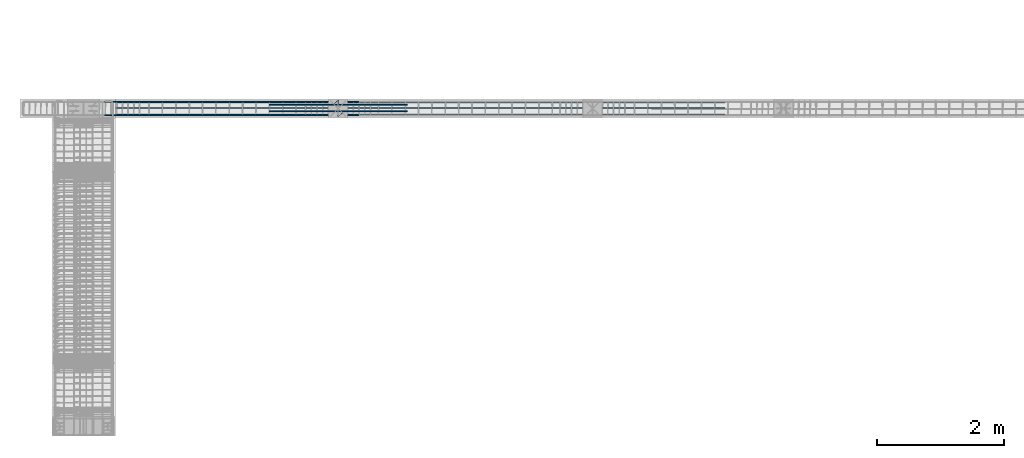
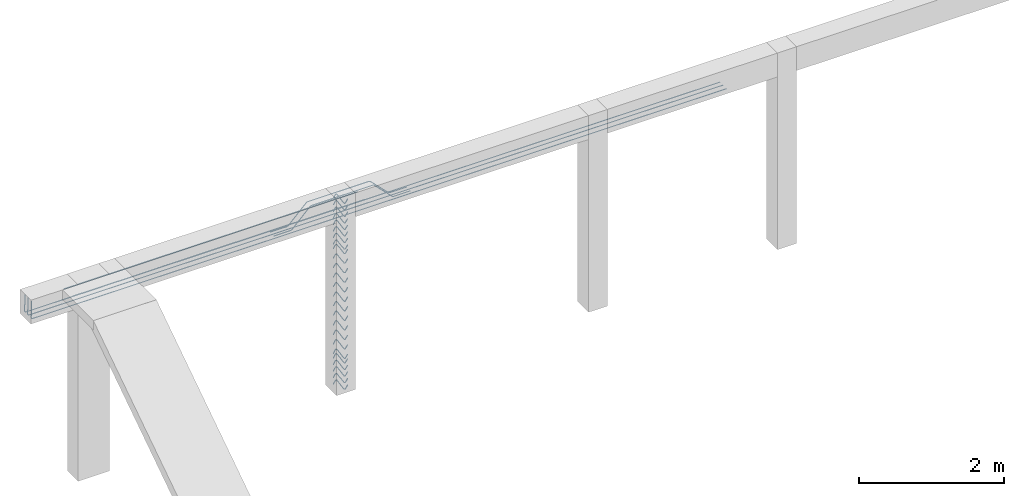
# One storey, part 8 of 24: 4 reinforcing bars.
"""IFC2X3 building model written with IfcOpenShell, lengths in metres."""

from ifc_helpers import new_model, entity, si_unit, direction, frame, origin, place, context, subcontext, project, spatial, shape, source, transform, mapped, element, save


model = new_model("IFC2X3")

# Units and contexts
model_context = context("Model", 3, precision=0.0, world=origin(), true_north=direction((0.0, 1.0)))
plan_context = context("Plan", 3, precision=0.0, world=origin(), true_north=direction((0.0, 1.0)))
body_context = subcontext(model_context, "Body", "Model", "MODEL_VIEW", scale=1.0)
ifc_project = project(units=[si_unit("LENGTHUNIT", "METRE"), si_unit("AREAUNIT", "SQUARE_METRE"), si_unit("VOLUMEUNIT", "CUBIC_METRE"), si_unit("PLANEANGLEUNIT", "RADIAN"), si_unit("THERMODYNAMICTEMPERATUREUNIT", "DEGREE_CELSIUS"), si_unit("FORCEUNIT", "NEWTON"), si_unit("MASSUNIT", "GRAM", prefix="KILO")], contexts=[model_context, plan_context])

# Site, building, storey
placement = place(None, origin())
site = spatial("IfcSite", under=ifc_project, at=placement, Name="Default Site", CompositionType="ELEMENT")
building = spatial("IfcBuilding", under=site, at=placement, Name="Default Building", CompositionType="ELEMENT")
storey_placement = place(placement, frame((0.0, 0.0, 3.3), z_axis=(1.0, 0.0, 0.0), x_axis=(0.0, 0.0, 1.0)))
storey = spatial("IfcBuildingStorey", under=building, at=storey_placement, Name="Piano 2", CompositionType="ELEMENT", Elevation=3.3)

# Reinforcing bars
shared_shape_1 = source(origin(), body_context, None, "AdvancedSweptSolid", [
    entity("IfcSweptDiskSolid", entity("IfcCompositeCurve", [entity("IfcCompositeCurveSegment", "CONTINUOUS", True, entity("IfcPolyline", [entity("IfcCartesianPoint", [0.0, 0.0, 0.0]), entity("IfcCartesianPoint", [0.268402, 0.0, 0.0]), entity("IfcCartesianPoint", [0.288201, 0.0, 0.008201]), entity("IfcCartesianPoint", [0.575799, 0.0, 0.295799]), entity("IfcCartesianPoint", [0.595598, 0.0, 0.304]), entity("IfcCartesianPoint", [1.084, 0.0, 0.304]), entity("IfcCartesianPoint", [1.572402, 0.0, 0.304]), entity("IfcCartesianPoint", [1.592201, 0.0, 0.295799]), entity("IfcCartesianPoint", [1.879799, 0.0, 0.008201]), entity("IfcCartesianPoint", [1.899598, 0.0, 0.0]), entity("IfcCartesianPoint", [2.168, 0.0, 0.0])]))], False), 0.007, 0.0, 0.0),
])
shared_shape_2 = source(origin(), body_context, None, "MappedRepresentation", [mapped(shared_shape_1, transform((-1.084, 4.9545, 2.944)))])
shared_shape_3 = source(origin(), body_context, None, "AdvancedSweptSolid", [
    entity("IfcSweptDiskSolid", entity("IfcCompositeCurve", [entity("IfcCompositeCurveSegment", "CONTINUOUS", True, entity("IfcPolyline", [entity("IfcCartesianPoint", [0.0, 0.0, 0.0]), entity("IfcCartesianPoint", [0.268402, 0.0, 0.0]), entity("IfcCartesianPoint", [0.288201, 0.0, 0.008201]), entity("IfcCartesianPoint", [0.575799, 0.0, 0.295799]), entity("IfcCartesianPoint", [0.595598, 0.0, 0.304]), entity("IfcCartesianPoint", [1.084, 0.0, 0.304]), entity("IfcCartesianPoint", [1.572402, 0.0, 0.304]), entity("IfcCartesianPoint", [1.592201, 0.0, 0.295799]), entity("IfcCartesianPoint", [1.879799, 0.0, 0.008201]), entity("IfcCartesianPoint", [1.899598, 0.0, 0.0]), entity("IfcCartesianPoint", [2.168, 0.0, 0.0])]))], False), 0.007, 0.0, 0.0),
])
shared_shape_4 = source(origin(), body_context, None, "MappedRepresentation", [mapped(shared_shape_3, transform((-1.084, 5.0595, 2.944)))])
element("IfcReinforcingBar", 1, at=placement, inside=storey, Name="Arm Superiore; Trave:5 [Piano:2]", BarLength=4.832621, BarRole="MAIN", BarSurface="TEXTURED", NominalDiameter=0.014, shapes=[
    shape(body_context, None, "MappedRepresentation", [mapped(shared_shape_2, transform((0.0, 0.0, 0.0))), mapped(shared_shape_4, transform((0.0, 0.0, 0.0)))]),
])
shared_shape_5 = source(origin(), body_context, None, "AdvancedSweptSolid", [
    entity("IfcSweptDiskSolid", entity("IfcCompositeCurve", [entity("IfcCompositeCurveSegment", "CONTINUOUS", True, entity("IfcPolyline", [entity("IfcCartesianPoint", [0.0, 0.0, 0.0]), entity("IfcCartesianPoint", [0.0, 0.012466, -0.276029]), entity("IfcCartesianPoint", [0.003751, 0.013097, -0.290014]), entity("IfcCartesianPoint", [0.014, 0.01356, -0.300253]), entity("IfcCartesianPoint", [0.028, 0.013729, -0.304]), entity("IfcCartesianPoint", [0.962, 0.013729, -0.304]), entity("IfcCartesianPoint", [4.962, 0.013729, -0.304]), entity("IfcCartesianPoint", [8.962, 0.013729, -0.304]), entity("IfcCartesianPoint", [10.462, 0.013729, -0.304]), entity("IfcCartesianPoint", [11.0395, 0.013729, -0.304])]))], False), 0.007, 0.0, 0.0),
])
shared_shape_6 = source(origin(), body_context, None, "MappedRepresentation", [mapped(shared_shape_5, transform((-4.962, 4.895271, 3.242)))])
shared_shape_7 = source(origin(), body_context, None, "AdvancedSweptSolid", [
    entity("IfcSweptDiskSolid", entity("IfcCompositeCurve", [entity("IfcCompositeCurveSegment", "CONTINUOUS", True, entity("IfcPolyline", [entity("IfcCartesianPoint", [0.0, 0.0, 0.0]), entity("IfcCartesianPoint", [0.0, 0.012466, -0.276029]), entity("IfcCartesianPoint", [0.003751, 0.013097, -0.290014]), entity("IfcCartesianPoint", [0.014, 0.01356, -0.300253]), entity("IfcCartesianPoint", [0.028, 0.013729, -0.304]), entity("IfcCartesianPoint", [0.962, 0.013729, -0.304]), entity("IfcCartesianPoint", [4.962, 0.013729, -0.304]), entity("IfcCartesianPoint", [8.962, 0.013729, -0.304]), entity("IfcCartesianPoint", [10.462, 0.013729, -0.304]), entity("IfcCartesianPoint", [11.0395, 0.013729, -0.304])]))], False), 0.007, 0.0, 0.0),
])
shared_shape_8 = source(origin(), body_context, None, "MappedRepresentation", [mapped(shared_shape_7, transform((-4.962, 4.993271, 3.242)))])
shared_shape_9 = source(origin(), body_context, None, "AdvancedSweptSolid", [
    entity("IfcSweptDiskSolid", entity("IfcCompositeCurve", [entity("IfcCompositeCurveSegment", "CONTINUOUS", True, entity("IfcPolyline", [entity("IfcCartesianPoint", [0.0, 0.0, 0.0]), entity("IfcCartesianPoint", [0.0, 0.012466, -0.276029]), entity("IfcCartesianPoint", [0.003751, 0.013097, -0.290014]), entity("IfcCartesianPoint", [0.014, 0.01356, -0.300253]), entity("IfcCartesianPoint", [0.028, 0.013729, -0.304]), entity("IfcCartesianPoint", [0.962, 0.013729, -0.304]), entity("IfcCartesianPoint", [4.962, 0.013729, -0.304]), entity("IfcCartesianPoint", [8.962, 0.013729, -0.304]), entity("IfcCartesianPoint", [10.462, 0.013729, -0.304]), entity("IfcCartesianPoint", [11.0395, 0.013729, -0.304])]))], False), 0.007, 0.0, 0.0),
])
shared_shape_10 = source(origin(), body_context, None, "MappedRepresentation", [mapped(shared_shape_9, transform((-4.962, 5.077271, 3.242)))])
element("IfcReinforcingBar", 2, at=placement, inside=storey, Name="Arm Inferiore; Trave:5 [Piano:2]", BarLength=34.018911, BarRole="MAIN", BarSurface="TEXTURED", NominalDiameter=0.014, shapes=[
    shape(body_context, None, "MappedRepresentation", [mapped(shared_shape_6, transform((0.0, 0.0, 0.0))), mapped(shared_shape_8, transform((0.0, 0.0, 0.0))), mapped(shared_shape_10, transform((0.0, 0.0, 0.0)))]),
])
shared_shape_11 = source(origin(), body_context, None, "AdvancedSweptSolid", [
    entity("IfcSweptDiskSolid", entity("IfcCompositeCurve", [entity("IfcCompositeCurveSegment", "CONTINUOUS", True, entity("IfcPolyline", [entity("IfcCartesianPoint", [0.0, 0.0, 0.0]), entity("IfcCartesianPoint", [0.326909, 0.0, 0.0]), entity("IfcCartesianPoint", [4.326909, 0.0, 0.0]), entity("IfcCartesianPoint", [4.653818, 0.0, 0.0])]))], False), 0.006, 0.0, 0.0),
])
shared_shape_12 = source(origin(), body_context, None, "MappedRepresentation", [mapped(shared_shape_11, transform((-4.326909, 5.106, 3.099)))])
shared_shape_13 = source(origin(), body_context, None, "AdvancedSweptSolid", [
    entity("IfcSweptDiskSolid", entity("IfcCompositeCurve", [entity("IfcCompositeCurveSegment", "CONTINUOUS", True, entity("IfcPolyline", [entity("IfcCartesianPoint", [0.0, 0.0, 0.0]), entity("IfcCartesianPoint", [0.326909, 0.0, 0.0]), entity("IfcCartesianPoint", [4.326909, 0.0, 0.0]), entity("IfcCartesianPoint", [4.653818, 0.0, 0.0])]))], False), 0.006, 0.0, 0.0),
])
shared_shape_14 = source(origin(), body_context, None, "MappedRepresentation", [mapped(shared_shape_13, transform((-4.326909, 4.894, 3.099)))])
element("IfcReinforcingBar", 3, at=placement, inside=storey, Name="Arm Generica; Trave:5 [Piano:2]", BarLength=9.307635, BarRole="NOTDEFINED", BarSurface="TEXTURED", NominalDiameter=0.012, shapes=[
    shape(body_context, None, "MappedRepresentation", [mapped(shared_shape_12, transform((0.0, 0.0, 0.0))), mapped(shared_shape_14, transform((0.0, 0.0, 0.0)))]),
])
shared_shape_15 = source(origin(), body_context, None, "AdvancedSweptSolid", [
    entity("IfcSweptDiskSolid", entity("IfcCompositeCurve", [entity("IfcCompositeCurveSegment", "CONTINUOUS", True, entity("IfcPolyline", [entity("IfcCartesianPoint", [0.0, 0.0, 0.0]), entity("IfcCartesianPoint", [-0.068884, -0.063585, 0.0]), entity("IfcCartesianPoint", [-0.079736, -0.067828, 0.0]), entity("IfcCartesianPoint", [-0.084613, -0.065808, 0.0]), entity("IfcCartesianPoint", [-0.089037, -0.055129, 0.0]), entity("IfcCartesianPoint", [-0.089037, -0.052272, 0.0]), entity("IfcCartesianPoint", [-0.067037, 0.168616, 0.0]), entity("IfcCartesianPoint", [-0.067037, 0.171101, 0.0]), entity("IfcCartesianPoint", [-0.071723, 0.182415, 0.0]), entity("IfcCartesianPoint", [-0.075966, 0.184172, 0.0]), entity("IfcCartesianPoint", [-0.08719, 0.179929, 0.0]), entity("IfcCartesianPoint", [-0.156073, 0.116344, 0.0])]))], False), 0.004, 0.0, 0.0),
])
shared_shape_16 = source(origin(), body_context, None, "AdvancedSweptSolid", [
    entity("IfcSweptDiskSolid", entity("IfcCompositeCurve", [entity("IfcCompositeCurveSegment", "CONTINUOUS", True, entity("IfcPolyline", [entity("IfcCartesianPoint", [0.0, 0.0, 0.0]), entity("IfcCartesianPoint", [-0.068884, -0.063585, 0.0]), entity("IfcCartesianPoint", [-0.079736, -0.067828, 0.0]), entity("IfcCartesianPoint", [-0.084613, -0.065808, 0.0]), entity("IfcCartesianPoint", [-0.089037, -0.055129, 0.0]), entity("IfcCartesianPoint", [-0.089037, -0.052272, 0.0]), entity("IfcCartesianPoint", [-0.067037, 0.168616, 0.0]), entity("IfcCartesianPoint", [-0.067037, 0.171101, 0.0]), entity("IfcCartesianPoint", [-0.071723, 0.182415, 0.0]), entity("IfcCartesianPoint", [-0.075966, 0.184172, 0.0]), entity("IfcCartesianPoint", [-0.08719, 0.179929, 0.0]), entity("IfcCartesianPoint", [-0.156073, 0.116344, 0.0])]))], False), 0.004, 0.0, 0.0),
])
shared_shape_17 = source(origin(), body_context, None, "AdvancedSweptSolid", [
    entity("IfcSweptDiskSolid", entity("IfcCompositeCurve", [entity("IfcCompositeCurveSegment", "CONTINUOUS", True, entity("IfcPolyline", [entity("IfcCartesianPoint", [0.0, 0.0, 0.0]), entity("IfcCartesianPoint", [-0.068884, -0.063585, 0.0]), entity("IfcCartesianPoint", [-0.079736, -0.067828, 0.0]), entity("IfcCartesianPoint", [-0.084613, -0.065808, 0.0]), entity("IfcCartesianPoint", [-0.089037, -0.055129, 0.0]), entity("IfcCartesianPoint", [-0.089037, -0.052272, 0.0]), entity("IfcCartesianPoint", [-0.067037, 0.168616, 0.0]), entity("IfcCartesianPoint", [-0.067037, 0.171101, 0.0]), entity("IfcCartesianPoint", [-0.071723, 0.182415, 0.0]), entity("IfcCartesianPoint", [-0.075966, 0.184172, 0.0]), entity("IfcCartesianPoint", [-0.08719, 0.179929, 0.0]), entity("IfcCartesianPoint", [-0.156073, 0.116344, 0.0])]))], False), 0.004, 0.0, 0.0),
])
shared_shape_18 = source(origin(), body_context, None, "AdvancedSweptSolid", [
    entity("IfcSweptDiskSolid", entity("IfcCompositeCurve", [entity("IfcCompositeCurveSegment", "CONTINUOUS", True, entity("IfcPolyline", [entity("IfcCartesianPoint", [0.0, 0.0, 0.0]), entity("IfcCartesianPoint", [-0.068884, -0.063585, 0.0]), entity("IfcCartesianPoint", [-0.079736, -0.067828, 0.0]), entity("IfcCartesianPoint", [-0.084613, -0.065808, 0.0]), entity("IfcCartesianPoint", [-0.089037, -0.055129, 0.0]), entity("IfcCartesianPoint", [-0.089037, -0.052272, 0.0]), entity("IfcCartesianPoint", [-0.067037, 0.168616, 0.0]), entity("IfcCartesianPoint", [-0.067037, 0.171101, 0.0]), entity("IfcCartesianPoint", [-0.071723, 0.182415, 0.0]), entity("IfcCartesianPoint", [-0.075966, 0.184172, 0.0]), entity("IfcCartesianPoint", [-0.08719, 0.179929, 0.0]), entity("IfcCartesianPoint", [-0.156073, 0.116344, 0.0])]))], False), 0.004, 0.0, 0.0),
])
shared_shape_19 = source(origin(), body_context, None, "AdvancedSweptSolid", [
    entity("IfcSweptDiskSolid", entity("IfcCompositeCurve", [entity("IfcCompositeCurveSegment", "CONTINUOUS", True, entity("IfcPolyline", [entity("IfcCartesianPoint", [0.0, 0.0, 0.0]), entity("IfcCartesianPoint", [-0.068884, -0.063585, 0.0]), entity("IfcCartesianPoint", [-0.079736, -0.067828, 0.0]), entity("IfcCartesianPoint", [-0.084613, -0.065808, 0.0]), entity("IfcCartesianPoint", [-0.089037, -0.055129, 0.0]), entity("IfcCartesianPoint", [-0.089037, -0.052272, 0.0]), entity("IfcCartesianPoint", [-0.067037, 0.168616, 0.0]), entity("IfcCartesianPoint", [-0.067037, 0.171101, 0.0]), entity("IfcCartesianPoint", [-0.071723, 0.182415, 0.0]), entity("IfcCartesianPoint", [-0.075966, 0.184172, 0.0]), entity("IfcCartesianPoint", [-0.08719, 0.179929, 0.0]), entity("IfcCartesianPoint", [-0.156073, 0.116344, 0.0])]))], False), 0.004, 0.0, 0.0),
])
shared_shape_20 = source(origin(), body_context, None, "AdvancedSweptSolid", [
    entity("IfcSweptDiskSolid", entity("IfcCompositeCurve", [entity("IfcCompositeCurveSegment", "CONTINUOUS", True, entity("IfcPolyline", [entity("IfcCartesianPoint", [0.0, 0.0, 0.0]), entity("IfcCartesianPoint", [-0.068884, -0.063585, 0.0]), entity("IfcCartesianPoint", [-0.079736, -0.067828, 0.0]), entity("IfcCartesianPoint", [-0.084613, -0.065808, 0.0]), entity("IfcCartesianPoint", [-0.089037, -0.055129, 0.0]), entity("IfcCartesianPoint", [-0.089037, -0.052272, 0.0]), entity("IfcCartesianPoint", [-0.067037, 0.168616, 0.0]), entity("IfcCartesianPoint", [-0.067037, 0.171101, 0.0]), entity("IfcCartesianPoint", [-0.071723, 0.182415, 0.0]), entity("IfcCartesianPoint", [-0.075966, 0.184172, 0.0]), entity("IfcCartesianPoint", [-0.08719, 0.179929, 0.0]), entity("IfcCartesianPoint", [-0.156073, 0.116344, 0.0])]))], False), 0.004, 0.0, 0.0),
])
shared_shape_21 = source(origin(), body_context, None, "AdvancedSweptSolid", [
    entity("IfcSweptDiskSolid", entity("IfcCompositeCurve", [entity("IfcCompositeCurveSegment", "CONTINUOUS", True, entity("IfcPolyline", [entity("IfcCartesianPoint", [0.0, 0.0, 0.0]), entity("IfcCartesianPoint", [-0.068884, -0.063585, 0.0]), entity("IfcCartesianPoint", [-0.079736, -0.067828, 0.0]), entity("IfcCartesianPoint", [-0.084613, -0.065808, 0.0]), entity("IfcCartesianPoint", [-0.089037, -0.055129, 0.0]), entity("IfcCartesianPoint", [-0.089037, -0.052272, 0.0]), entity("IfcCartesianPoint", [-0.067037, 0.168616, 0.0]), entity("IfcCartesianPoint", [-0.067037, 0.171101, 0.0]), entity("IfcCartesianPoint", [-0.071723, 0.182415, 0.0]), entity("IfcCartesianPoint", [-0.075966, 0.184172, 0.0]), entity("IfcCartesianPoint", [-0.08719, 0.179929, 0.0]), entity("IfcCartesianPoint", [-0.156073, 0.116344, 0.0])]))], False), 0.004, 0.0, 0.0),
])
shared_shape_22 = source(origin(), body_context, None, "AdvancedSweptSolid", [
    entity("IfcSweptDiskSolid", entity("IfcCompositeCurve", [entity("IfcCompositeCurveSegment", "CONTINUOUS", True, entity("IfcPolyline", [entity("IfcCartesianPoint", [0.0, 0.0, 0.0]), entity("IfcCartesianPoint", [-0.068884, -0.063585, 0.0]), entity("IfcCartesianPoint", [-0.079736, -0.067828, 0.0]), entity("IfcCartesianPoint", [-0.084613, -0.065808, 0.0]), entity("IfcCartesianPoint", [-0.089037, -0.055129, 0.0]), entity("IfcCartesianPoint", [-0.089037, -0.052272, 0.0]), entity("IfcCartesianPoint", [-0.067037, 0.168616, 0.0]), entity("IfcCartesianPoint", [-0.067037, 0.171101, 0.0]), entity("IfcCartesianPoint", [-0.071723, 0.182415, 0.0]), entity("IfcCartesianPoint", [-0.075966, 0.184172, 0.0]), entity("IfcCartesianPoint", [-0.08719, 0.179929, 0.0]), entity("IfcCartesianPoint", [-0.156073, 0.116344, 0.0])]))], False), 0.004, 0.0, 0.0),
])
shared_shape_23 = source(origin(), body_context, None, "AdvancedSweptSolid", [
    entity("IfcSweptDiskSolid", entity("IfcCompositeCurve", [entity("IfcCompositeCurveSegment", "CONTINUOUS", True, entity("IfcPolyline", [entity("IfcCartesianPoint", [0.0, 0.0, 0.0]), entity("IfcCartesianPoint", [-0.068884, -0.063585, 0.0]), entity("IfcCartesianPoint", [-0.079736, -0.067828, 0.0]), entity("IfcCartesianPoint", [-0.084613, -0.065808, 0.0]), entity("IfcCartesianPoint", [-0.089037, -0.055129, 0.0]), entity("IfcCartesianPoint", [-0.089037, -0.052272, 0.0]), entity("IfcCartesianPoint", [-0.067037, 0.168616, 0.0]), entity("IfcCartesianPoint", [-0.067037, 0.171101, 0.0]), entity("IfcCartesianPoint", [-0.071723, 0.182415, 0.0]), entity("IfcCartesianPoint", [-0.075966, 0.184172, 0.0]), entity("IfcCartesianPoint", [-0.08719, 0.179929, 0.0]), entity("IfcCartesianPoint", [-0.156073, 0.116344, 0.0])]))], False), 0.004, 0.0, 0.0),
])
shared_shape_24 = source(origin(), body_context, None, "AdvancedSweptSolid", [
    entity("IfcSweptDiskSolid", entity("IfcCompositeCurve", [entity("IfcCompositeCurveSegment", "CONTINUOUS", True, entity("IfcPolyline", [entity("IfcCartesianPoint", [0.0, 0.0, 0.0]), entity("IfcCartesianPoint", [-0.068884, -0.063585, 0.0]), entity("IfcCartesianPoint", [-0.079736, -0.067828, 0.0]), entity("IfcCartesianPoint", [-0.084613, -0.065808, 0.0]), entity("IfcCartesianPoint", [-0.089037, -0.055129, 0.0]), entity("IfcCartesianPoint", [-0.089037, -0.052272, 0.0]), entity("IfcCartesianPoint", [-0.067037, 0.168616, 0.0]), entity("IfcCartesianPoint", [-0.067037, 0.171101, 0.0]), entity("IfcCartesianPoint", [-0.071723, 0.182415, 0.0]), entity("IfcCartesianPoint", [-0.075966, 0.184172, 0.0]), entity("IfcCartesianPoint", [-0.08719, 0.179929, 0.0]), entity("IfcCartesianPoint", [-0.156073, 0.116344, 0.0])]))], False), 0.004, 0.0, 0.0),
])
shared_shape_25 = source(origin(), body_context, None, "AdvancedSweptSolid", [
    entity("IfcSweptDiskSolid", entity("IfcCompositeCurve", [entity("IfcCompositeCurveSegment", "CONTINUOUS", True, entity("IfcPolyline", [entity("IfcCartesianPoint", [0.0, 0.0, 0.0]), entity("IfcCartesianPoint", [-0.068884, -0.063585, 0.0]), entity("IfcCartesianPoint", [-0.079736, -0.067828, 0.0]), entity("IfcCartesianPoint", [-0.084613, -0.065808, 0.0]), entity("IfcCartesianPoint", [-0.089037, -0.055129, 0.0]), entity("IfcCartesianPoint", [-0.089037, -0.052272, 0.0]), entity("IfcCartesianPoint", [-0.067037, 0.168616, 0.0]), entity("IfcCartesianPoint", [-0.067037, 0.171101, 0.0]), entity("IfcCartesianPoint", [-0.071723, 0.182415, 0.0]), entity("IfcCartesianPoint", [-0.075966, 0.184172, 0.0]), entity("IfcCartesianPoint", [-0.08719, 0.179929, 0.0]), entity("IfcCartesianPoint", [-0.156073, 0.116344, 0.0])]))], False), 0.004, 0.0, 0.0),
])
shared_shape_26 = source(origin(), body_context, None, "AdvancedSweptSolid", [
    entity("IfcSweptDiskSolid", entity("IfcCompositeCurve", [entity("IfcCompositeCurveSegment", "CONTINUOUS", True, entity("IfcPolyline", [entity("IfcCartesianPoint", [0.0, 0.0, 0.0]), entity("IfcCartesianPoint", [-0.068884, -0.063585, 0.0]), entity("IfcCartesianPoint", [-0.079736, -0.067828, 0.0]), entity("IfcCartesianPoint", [-0.084613, -0.065808, 0.0]), entity("IfcCartesianPoint", [-0.089037, -0.055129, 0.0]), entity("IfcCartesianPoint", [-0.089037, -0.052272, 0.0]), entity("IfcCartesianPoint", [-0.067037, 0.168616, 0.0]), entity("IfcCartesianPoint", [-0.067037, 0.171101, 0.0]), entity("IfcCartesianPoint", [-0.071723, 0.182415, 0.0]), entity("IfcCartesianPoint", [-0.075966, 0.184172, 0.0]), entity("IfcCartesianPoint", [-0.08719, 0.179929, 0.0]), entity("IfcCartesianPoint", [-0.156073, 0.116344, 0.0])]))], False), 0.004, 0.0, 0.0),
])
shared_shape_27 = source(origin(), body_context, None, "AdvancedSweptSolid", [
    entity("IfcSweptDiskSolid", entity("IfcCompositeCurve", [entity("IfcCompositeCurveSegment", "CONTINUOUS", True, entity("IfcPolyline", [entity("IfcCartesianPoint", [0.0, 0.0, 0.0]), entity("IfcCartesianPoint", [-0.068884, -0.063585, 0.0]), entity("IfcCartesianPoint", [-0.079736, -0.067828, 0.0]), entity("IfcCartesianPoint", [-0.084613, -0.065808, 0.0]), entity("IfcCartesianPoint", [-0.089037, -0.055129, 0.0]), entity("IfcCartesianPoint", [-0.089037, -0.052272, 0.0]), entity("IfcCartesianPoint", [-0.067037, 0.168616, 0.0]), entity("IfcCartesianPoint", [-0.067037, 0.171101, 0.0]), entity("IfcCartesianPoint", [-0.071723, 0.182415, 0.0]), entity("IfcCartesianPoint", [-0.075966, 0.184172, 0.0]), entity("IfcCartesianPoint", [-0.08719, 0.179929, 0.0]), entity("IfcCartesianPoint", [-0.156073, 0.116344, 0.0])]))], False), 0.004, 0.0, 0.0),
])
shared_shape_28 = source(origin(), body_context, None, "AdvancedSweptSolid", [
    entity("IfcSweptDiskSolid", entity("IfcCompositeCurve", [entity("IfcCompositeCurveSegment", "CONTINUOUS", True, entity("IfcPolyline", [entity("IfcCartesianPoint", [0.0, 0.0, 0.0]), entity("IfcCartesianPoint", [-0.068884, -0.063585, 0.0]), entity("IfcCartesianPoint", [-0.079736, -0.067828, 0.0]), entity("IfcCartesianPoint", [-0.084613, -0.065808, 0.0]), entity("IfcCartesianPoint", [-0.089037, -0.055129, 0.0]), entity("IfcCartesianPoint", [-0.089037, -0.052272, 0.0]), entity("IfcCartesianPoint", [-0.067037, 0.168616, 0.0]), entity("IfcCartesianPoint", [-0.067037, 0.171101, 0.0]), entity("IfcCartesianPoint", [-0.071723, 0.182415, 0.0]), entity("IfcCartesianPoint", [-0.075966, 0.184172, 0.0]), entity("IfcCartesianPoint", [-0.08719, 0.179929, 0.0]), entity("IfcCartesianPoint", [-0.156073, 0.116344, 0.0])]))], False), 0.004, 0.0, 0.0),
])
shared_shape_29 = source(origin(), body_context, None, "AdvancedSweptSolid", [
    entity("IfcSweptDiskSolid", entity("IfcCompositeCurve", [entity("IfcCompositeCurveSegment", "CONTINUOUS", True, entity("IfcPolyline", [entity("IfcCartesianPoint", [0.0, 0.0, 0.0]), entity("IfcCartesianPoint", [-0.068884, -0.063585, 0.0]), entity("IfcCartesianPoint", [-0.079736, -0.067828, 0.0]), entity("IfcCartesianPoint", [-0.084613, -0.065808, 0.0]), entity("IfcCartesianPoint", [-0.089037, -0.055129, 0.0]), entity("IfcCartesianPoint", [-0.089037, -0.052272, 0.0]), entity("IfcCartesianPoint", [-0.067037, 0.168616, 0.0]), entity("IfcCartesianPoint", [-0.067037, 0.171101, 0.0]), entity("IfcCartesianPoint", [-0.071723, 0.182415, 0.0]), entity("IfcCartesianPoint", [-0.075966, 0.184172, 0.0]), entity("IfcCartesianPoint", [-0.08719, 0.179929, 0.0]), entity("IfcCartesianPoint", [-0.156073, 0.116344, 0.0])]))], False), 0.004, 0.0, 0.0),
])
shared_shape_30 = source(origin(), body_context, None, "AdvancedSweptSolid", [
    entity("IfcSweptDiskSolid", entity("IfcCompositeCurve", [entity("IfcCompositeCurveSegment", "CONTINUOUS", True, entity("IfcPolyline", [entity("IfcCartesianPoint", [0.0, 0.0, 0.0]), entity("IfcCartesianPoint", [-0.068884, -0.063585, 0.0]), entity("IfcCartesianPoint", [-0.079736, -0.067828, 0.0]), entity("IfcCartesianPoint", [-0.084613, -0.065808, 0.0]), entity("IfcCartesianPoint", [-0.089037, -0.055129, 0.0]), entity("IfcCartesianPoint", [-0.089037, -0.052272, 0.0]), entity("IfcCartesianPoint", [-0.067037, 0.168616, 0.0]), entity("IfcCartesianPoint", [-0.067037, 0.171101, 0.0]), entity("IfcCartesianPoint", [-0.071723, 0.182415, 0.0]), entity("IfcCartesianPoint", [-0.075966, 0.184172, 0.0]), entity("IfcCartesianPoint", [-0.08719, 0.179929, 0.0]), entity("IfcCartesianPoint", [-0.156073, 0.116344, 0.0])]))], False), 0.004, 0.0, 0.0),
])
shared_shape_31 = source(origin(), body_context, None, "AdvancedSweptSolid", [
    entity("IfcSweptDiskSolid", entity("IfcCompositeCurve", [entity("IfcCompositeCurveSegment", "CONTINUOUS", True, entity("IfcPolyline", [entity("IfcCartesianPoint", [0.0, 0.0, 0.0]), entity("IfcCartesianPoint", [-0.068884, -0.063585, 0.0]), entity("IfcCartesianPoint", [-0.079736, -0.067828, 0.0]), entity("IfcCartesianPoint", [-0.084613, -0.065808, 0.0]), entity("IfcCartesianPoint", [-0.089037, -0.055129, 0.0]), entity("IfcCartesianPoint", [-0.089037, -0.052272, 0.0]), entity("IfcCartesianPoint", [-0.067037, 0.168616, 0.0]), entity("IfcCartesianPoint", [-0.067037, 0.171101, 0.0]), entity("IfcCartesianPoint", [-0.071723, 0.182415, 0.0]), entity("IfcCartesianPoint", [-0.075966, 0.184172, 0.0]), entity("IfcCartesianPoint", [-0.08719, 0.179929, 0.0]), entity("IfcCartesianPoint", [-0.156073, 0.116344, 0.0])]))], False), 0.004, 0.0, 0.0),
])
shared_shape_32 = source(origin(), body_context, None, "AdvancedSweptSolid", [
    entity("IfcSweptDiskSolid", entity("IfcCompositeCurve", [entity("IfcCompositeCurveSegment", "CONTINUOUS", True, entity("IfcPolyline", [entity("IfcCartesianPoint", [0.0, 0.0, 0.0]), entity("IfcCartesianPoint", [-0.068884, -0.063585, 0.0]), entity("IfcCartesianPoint", [-0.079736, -0.067828, 0.0]), entity("IfcCartesianPoint", [-0.084613, -0.065808, 0.0]), entity("IfcCartesianPoint", [-0.089037, -0.055129, 0.0]), entity("IfcCartesianPoint", [-0.089037, -0.052272, 0.0]), entity("IfcCartesianPoint", [-0.067037, 0.168616, 0.0]), entity("IfcCartesianPoint", [-0.067037, 0.171101, 0.0]), entity("IfcCartesianPoint", [-0.071723, 0.182415, 0.0]), entity("IfcCartesianPoint", [-0.075966, 0.184172, 0.0]), entity("IfcCartesianPoint", [-0.08719, 0.179929, 0.0]), entity("IfcCartesianPoint", [-0.156073, 0.116344, 0.0])]))], False), 0.004, 0.0, 0.0),
])
shared_shape_33 = source(origin(), body_context, None, "AdvancedSweptSolid", [
    entity("IfcSweptDiskSolid", entity("IfcCompositeCurve", [entity("IfcCompositeCurveSegment", "CONTINUOUS", True, entity("IfcPolyline", [entity("IfcCartesianPoint", [0.0, 0.0, 0.0]), entity("IfcCartesianPoint", [-0.068884, -0.063585, 0.0]), entity("IfcCartesianPoint", [-0.079736, -0.067828, 0.0]), entity("IfcCartesianPoint", [-0.084613, -0.065808, 0.0]), entity("IfcCartesianPoint", [-0.089037, -0.055129, 0.0]), entity("IfcCartesianPoint", [-0.089037, -0.052272, 0.0]), entity("IfcCartesianPoint", [-0.067037, 0.168616, 0.0]), entity("IfcCartesianPoint", [-0.067037, 0.171101, 0.0]), entity("IfcCartesianPoint", [-0.071723, 0.182415, 0.0]), entity("IfcCartesianPoint", [-0.075966, 0.184172, 0.0]), entity("IfcCartesianPoint", [-0.08719, 0.179929, 0.0]), entity("IfcCartesianPoint", [-0.156073, 0.116344, 0.0])]))], False), 0.004, 0.0, 0.0),
])
shared_shape_34 = source(origin(), body_context, None, "AdvancedSweptSolid", [
    entity("IfcSweptDiskSolid", entity("IfcCompositeCurve", [entity("IfcCompositeCurveSegment", "CONTINUOUS", True, entity("IfcPolyline", [entity("IfcCartesianPoint", [0.0, 0.0, 0.0]), entity("IfcCartesianPoint", [-0.068884, -0.063585, 0.0]), entity("IfcCartesianPoint", [-0.079736, -0.067828, 0.0]), entity("IfcCartesianPoint", [-0.084613, -0.065808, 0.0]), entity("IfcCartesianPoint", [-0.089037, -0.055129, 0.0]), entity("IfcCartesianPoint", [-0.089037, -0.052272, 0.0]), entity("IfcCartesianPoint", [-0.067037, 0.168616, 0.0]), entity("IfcCartesianPoint", [-0.067037, 0.171101, 0.0]), entity("IfcCartesianPoint", [-0.071723, 0.182415, 0.0]), entity("IfcCartesianPoint", [-0.075966, 0.184172, 0.0]), entity("IfcCartesianPoint", [-0.08719, 0.179929, 0.0]), entity("IfcCartesianPoint", [-0.156073, 0.116344, 0.0])]))], False), 0.004, 0.0, 0.0),
])
shared_shape_35 = source(origin(), body_context, None, "AdvancedSweptSolid", [
    entity("IfcSweptDiskSolid", entity("IfcCompositeCurve", [entity("IfcCompositeCurveSegment", "CONTINUOUS", True, entity("IfcPolyline", [entity("IfcCartesianPoint", [0.0, 0.0, 0.0]), entity("IfcCartesianPoint", [-0.068884, -0.063585, 0.0]), entity("IfcCartesianPoint", [-0.079736, -0.067828, 0.0]), entity("IfcCartesianPoint", [-0.084613, -0.065808, 0.0]), entity("IfcCartesianPoint", [-0.089037, -0.055129, 0.0]), entity("IfcCartesianPoint", [-0.089037, -0.052272, 0.0]), entity("IfcCartesianPoint", [-0.067037, 0.168616, 0.0]), entity("IfcCartesianPoint", [-0.067037, 0.171101, 0.0]), entity("IfcCartesianPoint", [-0.071723, 0.182415, 0.0]), entity("IfcCartesianPoint", [-0.075966, 0.184172, 0.0]), entity("IfcCartesianPoint", [-0.08719, 0.179929, 0.0]), entity("IfcCartesianPoint", [-0.156073, 0.116344, 0.0])]))], False), 0.004, 0.0, 0.0),
])
shared_shape_36 = source(origin(), body_context, None, "AdvancedSweptSolid", [
    entity("IfcSweptDiskSolid", entity("IfcCompositeCurve", [entity("IfcCompositeCurveSegment", "CONTINUOUS", True, entity("IfcPolyline", [entity("IfcCartesianPoint", [0.0, 0.0, 0.0]), entity("IfcCartesianPoint", [-0.068884, -0.063585, 0.0]), entity("IfcCartesianPoint", [-0.079736, -0.067828, 0.0]), entity("IfcCartesianPoint", [-0.084613, -0.065808, 0.0]), entity("IfcCartesianPoint", [-0.089037, -0.055129, 0.0]), entity("IfcCartesianPoint", [-0.089037, -0.052272, 0.0]), entity("IfcCartesianPoint", [-0.067037, 0.168616, 0.0]), entity("IfcCartesianPoint", [-0.067037, 0.171101, 0.0]), entity("IfcCartesianPoint", [-0.071723, 0.182415, 0.0]), entity("IfcCartesianPoint", [-0.075966, 0.184172, 0.0]), entity("IfcCartesianPoint", [-0.08719, 0.179929, 0.0]), entity("IfcCartesianPoint", [-0.156073, 0.116344, 0.0])]))], False), 0.004, 0.0, 0.0),
])
shared_shape_37 = source(origin(), body_context, None, "AdvancedSweptSolid", [
    entity("IfcSweptDiskSolid", entity("IfcCompositeCurve", [entity("IfcCompositeCurveSegment", "CONTINUOUS", True, entity("IfcPolyline", [entity("IfcCartesianPoint", [0.0, 0.0, 0.0]), entity("IfcCartesianPoint", [-0.068884, -0.063585, 0.0]), entity("IfcCartesianPoint", [-0.079736, -0.067828, 0.0]), entity("IfcCartesianPoint", [-0.084613, -0.065808, 0.0]), entity("IfcCartesianPoint", [-0.089037, -0.055129, 0.0]), entity("IfcCartesianPoint", [-0.089037, -0.052272, 0.0]), entity("IfcCartesianPoint", [-0.067037, 0.168616, 0.0]), entity("IfcCartesianPoint", [-0.067037, 0.171101, 0.0]), entity("IfcCartesianPoint", [-0.071723, 0.182415, 0.0]), entity("IfcCartesianPoint", [-0.075966, 0.184172, 0.0]), entity("IfcCartesianPoint", [-0.08719, 0.179929, 0.0]), entity("IfcCartesianPoint", [-0.156073, 0.116344, 0.0])]))], False), 0.004, 0.0, 0.0),
])
shared_shape_38 = source(origin(), body_context, None, "AdvancedSweptSolid", [
    entity("IfcSweptDiskSolid", entity("IfcCompositeCurve", [entity("IfcCompositeCurveSegment", "CONTINUOUS", True, entity("IfcPolyline", [entity("IfcCartesianPoint", [0.0, 0.0, 0.0]), entity("IfcCartesianPoint", [-0.068884, -0.063585, 0.0]), entity("IfcCartesianPoint", [-0.079736, -0.067828, 0.0]), entity("IfcCartesianPoint", [-0.084613, -0.065808, 0.0]), entity("IfcCartesianPoint", [-0.089037, -0.055129, 0.0]), entity("IfcCartesianPoint", [-0.089037, -0.052272, 0.0]), entity("IfcCartesianPoint", [-0.067037, 0.168616, 0.0]), entity("IfcCartesianPoint", [-0.067037, 0.171101, 0.0]), entity("IfcCartesianPoint", [-0.071723, 0.182415, 0.0]), entity("IfcCartesianPoint", [-0.075966, 0.184172, 0.0]), entity("IfcCartesianPoint", [-0.08719, 0.179929, 0.0]), entity("IfcCartesianPoint", [-0.156073, 0.116344, 0.0])]))], False), 0.004, 0.0, 0.0),
])
shared_shape_39 = source(origin(), body_context, None, "AdvancedSweptSolid", [
    entity("IfcSweptDiskSolid", entity("IfcCompositeCurve", [entity("IfcCompositeCurveSegment", "CONTINUOUS", True, entity("IfcPolyline", [entity("IfcCartesianPoint", [0.0, 0.0, 0.0]), entity("IfcCartesianPoint", [-0.068884, -0.063585, 0.0]), entity("IfcCartesianPoint", [-0.079736, -0.067828, 0.0]), entity("IfcCartesianPoint", [-0.084613, -0.065808, 0.0]), entity("IfcCartesianPoint", [-0.089037, -0.055129, 0.0]), entity("IfcCartesianPoint", [-0.089037, -0.052272, 0.0]), entity("IfcCartesianPoint", [-0.067037, 0.168616, 0.0]), entity("IfcCartesianPoint", [-0.067037, 0.171101, 0.0]), entity("IfcCartesianPoint", [-0.071723, 0.182415, 0.0]), entity("IfcCartesianPoint", [-0.075966, 0.184172, 0.0]), entity("IfcCartesianPoint", [-0.08719, 0.179929, 0.0]), entity("IfcCartesianPoint", [-0.156073, 0.116344, 0.0])]))], False), 0.004, 0.0, 0.0),
])
element("IfcReinforcingBar", 4, at=placement, inside=storey, Name="Arm Spillo; Pilastro:11 [Piano:2]", BarLength=11.916409, BarRole="LIGATURE", BarSurface="TEXTURED", NominalDiameter=0.008, shapes=[
    shape(body_context, None, "MappedRepresentation", [mapped(shared_shape_15, transform((0.078037, 4.941828, 2.945))), mapped(shared_shape_16, transform((0.078037, 4.941828, 3.055))), mapped(shared_shape_17, transform((0.078037, 4.941828, 3.165))), mapped(shared_shape_18, transform((0.078037, 4.941828, 2.835))), mapped(shared_shape_19, transform((0.078037, 4.941828, 2.725))), mapped(shared_shape_20, transform((0.078037, 4.941828, 2.615))), mapped(shared_shape_21, transform((0.078037, 4.941828, 2.505))), mapped(shared_shape_22, transform((0.078037, 4.941828, 2.395))), mapped(shared_shape_23, transform((0.078037, 4.941828, 2.32))), mapped(shared_shape_24, transform((0.078037, 4.941828, 2.16))), mapped(shared_shape_25, transform((0.078037, 4.941828, 2.0))), mapped(shared_shape_26, transform((0.078037, 4.941828, 1.84))), mapped(shared_shape_27, transform((0.078037, 4.941828, 1.68))), mapped(shared_shape_28, transform((0.078037, 4.941828, 1.52))), mapped(shared_shape_29, transform((0.078037, 4.941828, 1.36))), mapped(shared_shape_30, transform((0.078037, 4.941828, 1.2))), mapped(shared_shape_31, transform((0.078037, 4.941828, 1.04))), mapped(shared_shape_32, transform((0.078037, 4.941828, 0.88))), mapped(shared_shape_33, transform((0.078037, 4.941828, 0.72))), mapped(shared_shape_34, transform((0.078037, 4.941828, 0.56))), mapped(shared_shape_35, transform((0.078037, 4.941828, 0.045))), mapped(shared_shape_36, transform((0.078037, 4.941828, 0.155))), mapped(shared_shape_37, transform((0.078037, 4.941828, 0.265))), mapped(shared_shape_38, transform((0.078037, 4.941828, 0.375))), mapped(shared_shape_39, transform((0.078037, 4.941828, 0.485)))]),
])

save(model, "model.ifc")
